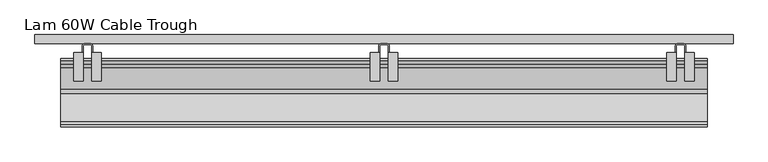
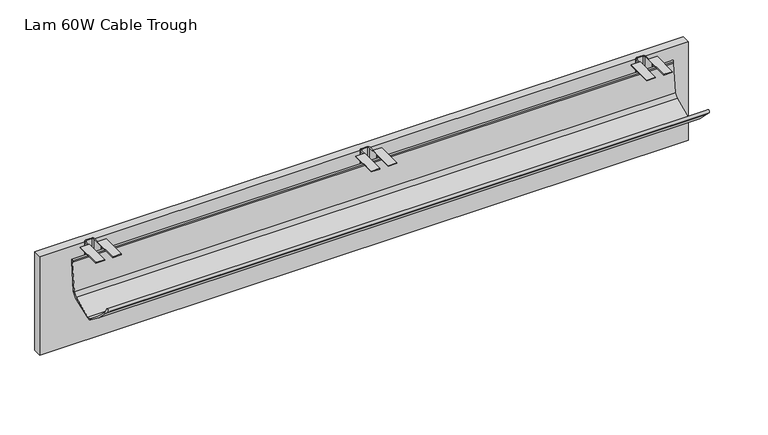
"""IFC4 building model written with IfcOpenShell, lengths in millimetres: furniture geometry, HermanMiller_ThrivePortfolio_Y1113_FabricModestyPanel : Lam 60W Cable Trough."""

from ifc_helpers import new_model, si_unit, point, frame, frame_2d, origin, place, context, project, spatial, polyline, circle_curve, trimmed, segment, composite_curve, outline, extrude, source, transform, mapped, element, save
from ifc_brep_helpers import plane_surface, cylinder_surface, revolved_surface, advanced_brep


def lam_60w_cable_trough_c497a591(model_context):
    return source(origin(), model_context, "Body", "SolidModel", [
        advanced_brep(
        [(1455.9153477, -129.9784643, 581.1783587), (1455.9153477, -138.7139894, 582.4060567), (1455.9153477, -198.75422, 634.7826925), (1455.9153477, -205.6805694, 647.1068285), (1455.9153477, -210.7198187, 643.3318213), (1455.9153477, -201.9455586, 634.3526316), (1455.9153477, -140.1690696, 580.3237712), (1455.9153477, -128.7464487, 578.9254856), (1455.9153477, -81.6381997, 596.9970871), (1455.9153477, -71.8455102, 609.1183797), (1455.9153477, -64.3572545, 676.9567898), (1455.9153477, -64.1154724, 681.4861643), (1455.9153477, -68.0580279, 680.8258123), (1455.9153477, -66.8071049, 677.1174631), (1455.9153477, -75.8148763, 609.8656088), (1455.9153477, -83.0609093, 601.0742849), (64.9478, -129.9784643, 581.1783587), (64.9478, -83.0609093, 601.0742849), (64.9478, -75.8148763, 609.8656088), (64.9478, -66.8071049, 677.1174631), (64.9478, -68.0580279, 680.8258123), (64.9478, -64.1154724, 681.4861643), (64.9478, -64.3572545, 676.9567898), (64.9478, -71.8455102, 609.1183797), (64.9478, -81.6381999, 596.9970876), (64.9478, -128.7464487, 578.9254856), (64.9478, -140.1690696, 580.3237712), (64.9478, -201.9455586, 634.3526316), (64.9478, -210.7198187, 643.3318213), (64.9478, -205.6805694, 647.1068285), (64.9478, -198.75422, 634.7826925), (64.9478, -138.7139894, 582.4060567)],
        [
            (0, 1, circle_curve(frame((1455.9153477, -133.1380873, 590.3885672), z_axis=(-1.0, 0.0, 0.0), x_axis=(0.0, 1.0, 0.0)), 9.7371022)),
            (1, 2, circle_curve(frame((1455.9153477, 73.7032601, 886.5044589), z_axis=(-1.0, 0.0, 0.0), x_axis=(0.0, 1.0, 0.0)), 370.9405965)),
            (2, 3),
            (3, 4, circle_curve(frame((1455.9153477, -208.4487225, 645.5510849), z_axis=(1.0, 0.0, 0.0), x_axis=(0.0, 1.0, 0.0)), 3.1753754)),
            (4, 5),
            (5, 6, circle_curve(frame((1455.9153477, 76.537838, 890.4379944), z_axis=(1.0, 0.0, 0.0), x_axis=(0.0, 1.0, 0.0)), 378.3288454)),
            (6, 7, circle_curve(frame((1455.9153477, -133.1410154, 590.381132), z_axis=(1.0, 0.0, 0.0), x_axis=(0.0, 1.0, 0.0)), 12.2696394)),
            (7, 8, circle_curve(frame((1455.9153477, -392.0017774, 1335.603441), z_axis=(1.0, 0.0, 0.0), x_axis=(0.0, 1.0, 0.0)), 801.1647124)),
            (8, 9, circle_curve(frame((1455.9153477, -88.0102619, 612.1613845), z_axis=(1.0, 0.0, 0.0), x_axis=(0.0, 1.0, 0.0)), 16.4486801)),
            (9, 10, circle_curve(frame((1455.9153477, -512.7649574, 692.1212018), z_axis=(1.0, 0.0, 0.0), x_axis=(0.0, 1.0, 0.0)), 448.6640474)),
            (10, 11),
            (11, 12, circle_curve(frame((1455.9153477, -66.1477003, 681.5198841), z_axis=(1.0, 0.0, 0.0), x_axis=(0.0, 1.0, 0.0)), 2.0325076)),
            (12, 13),
            (13, 14, circle_curve(frame((1455.9153477, -447.5076004, 693.8796345), z_axis=(-1.0, 0.0, 0.0), x_axis=(0.0, 1.0, 0.0)), 381.0693344)),
            (14, 15, circle_curve(frame((1455.9153477, -89.557462, 613.8107535), z_axis=(-1.0, 0.0, 0.0), x_axis=(0.0, 1.0, 0.0)), 14.2976511)),
            (15, 0, circle_curve(frame((1455.9153477, -247.1923462, 922.853387), z_axis=(-1.0, 0.0, 0.0), x_axis=(0.0, 1.0, 0.0)), 361.2214267)),
            (16, 17, circle_curve(frame((64.9478, -247.1923462, 922.853387), z_axis=(1.0, 0.0, 0.0), x_axis=(0.0, 1.0, 0.0)), 361.2214267)),
            (17, 18, circle_curve(frame((64.9478, -89.557462, 613.8107535), z_axis=(1.0, 0.0, 0.0), x_axis=(0.0, 1.0, 0.0)), 14.2976511)),
            (18, 19, circle_curve(frame((64.9478, -447.5076004, 693.8796345), z_axis=(1.0, 0.0, 0.0), x_axis=(0.0, 1.0, 0.0)), 381.0693344)),
            (19, 20),
            (20, 21, circle_curve(frame((64.9478, -66.1477003, 681.5198841), z_axis=(-1.0, 0.0, 0.0), x_axis=(0.0, 1.0, 0.0)), 2.0325076)),
            (21, 22),
            (22, 23, circle_curve(frame((64.9478, -512.7649574, 692.1212018), z_axis=(-1.0, 0.0, 0.0), x_axis=(0.0, 1.0, 0.0)), 448.6640474)),
            (23, 24, circle_curve(frame((64.9478, -88.0102619, 612.1613845), z_axis=(-1.0, 0.0, 0.0), x_axis=(0.0, 1.0, 0.0)), 16.4486801)),
            (24, 25, circle_curve(frame((64.9478, -392.0017774, 1335.603441), z_axis=(-1.0, 0.0, 0.0), x_axis=(0.0, 1.0, 0.0)), 801.1647124)),
            (25, 26, circle_curve(frame((64.9478, -133.1410154, 590.381132), z_axis=(-1.0, 0.0, 0.0), x_axis=(0.0, 1.0, 0.0)), 12.2696394)),
            (26, 27, circle_curve(frame((64.9478, 76.537838, 890.4379944), z_axis=(-1.0, 0.0, 0.0), x_axis=(0.0, 1.0, 0.0)), 378.3288454)),
            (27, 28),
            (28, 29, circle_curve(frame((64.9478, -208.4487225, 645.5510849), z_axis=(-1.0, 0.0, 0.0), x_axis=(0.0, 1.0, 0.0)), 3.1753754)),
            (29, 30),
            (30, 31, circle_curve(frame((64.9478, 73.7032601, 886.5044589), z_axis=(1.0, 0.0, 0.0), x_axis=(0.0, 1.0, 0.0)), 370.9405965)),
            (31, 16, circle_curve(frame((64.9478, -133.1380873, 590.3885672), z_axis=(1.0, 0.0, 0.0), x_axis=(0.0, 1.0, 0.0)), 9.7371022)),
            (0, 16),
            (31, 1),
            (30, 2),
            (29, 3),
            (28, 4),
            (27, 5),
            (26, 6),
            (25, 7),
            (24, 8),
            (23, 9),
            (22, 10),
            (21, 11),
            (20, 12),
            (19, 13),
            (18, 14),
            (17, 15),
        ],
        [
            plane_surface(frame((1455.9153477, -123.4009851, 590.3885672), z_axis=(1.0, 0.0, 0.0), x_axis=(0.0, 0.0, -1.0))),
            plane_surface(frame((64.9478, -123.4009851, 590.3885672), z_axis=(-1.0, 0.0, 0.0), x_axis=(0.0, 0.0, 1.0))),
            revolved_surface(polyline([(64.9478, -123.4009851, 590.3885672), (1455.9153477, -123.4009851, 590.3885672)]), (64.9478, -133.1380873, 590.3885672), (-1.0, 0.0, 0.0)),
            revolved_surface(polyline([(64.9478, 444.64385660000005, 886.5044589), (1455.9153477, 444.64385660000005, 886.5044589)]), (64.9478, 73.7032601, 886.5044589), (-1.0, 0.0, 0.0)),
            plane_surface(frame((1455.9153477, -198.75422, 634.7826925), z_axis=(0.0, 0.8717561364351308, 0.48994003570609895), x_axis=(-1.0, 0.0, 0.0))),
            cylinder_surface(frame((64.9478, -208.4487225, 645.5510849), z_axis=(1.0, 0.0, 0.0), x_axis=(0.0, 1.0, 0.0)), 3.1753754),
            plane_surface(frame((1455.9153477, -210.7198187, 643.3318213), z_axis=(0.0, -0.7152213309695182, -0.698898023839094), x_axis=(-1.0, 0.0, 0.0))),
            cylinder_surface(frame((64.9478, 76.537838, 890.4379944), z_axis=(1.0, 0.0, 0.0), x_axis=(0.0, 1.0, 0.0)), 378.3288454),
            cylinder_surface(frame((64.9478, -133.1410154, 590.381132), z_axis=(1.0, 0.0, 0.0), x_axis=(0.0, 1.0, 0.0)), 12.2696394),
            cylinder_surface(frame((64.9478, -392.0017774, 1335.603441), z_axis=(1.0, 0.0, 0.0), x_axis=(0.0, 1.0, 0.0)), 801.1647124),
            cylinder_surface(frame((64.9478, -88.0102619, 612.1613845), z_axis=(1.0, 0.0, 0.0), x_axis=(0.0, 1.0, 0.0)), 16.4486801),
            cylinder_surface(frame((64.9478, -512.7649574, 692.1212018), z_axis=(1.0, 0.0, 0.0), x_axis=(0.0, 1.0, 0.0)), 448.6640474),
            plane_surface(frame((1455.9153477, -64.3572545, 676.9567898), z_axis=(0.0, 0.9985782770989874, -0.053305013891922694), x_axis=(-1.0, 0.0, 0.0))),
            cylinder_surface(frame((64.9478, -66.1477003, 681.5198841), z_axis=(1.0, 0.0, 0.0), x_axis=(0.0, 1.0, 0.0)), 2.0325076),
            plane_surface(frame((1455.9153477, -68.0580279, 680.8258123), z_axis=(0.0, -0.9475421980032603, -0.3196306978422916), x_axis=(-1.0, 0.0, 0.0))),
            revolved_surface(polyline([(64.9478, -66.438266, 693.8796345), (1455.9153477, -66.438266, 693.8796345)]), (64.9478, -447.5076004, 693.8796345), (-1.0, 0.0, 0.0)),
            revolved_surface(polyline([(64.9478, -75.2598109, 613.8107535), (1455.9153477, -75.2598109, 613.8107535)]), (64.9478, -89.557462, 613.8107535), (-1.0, 0.0, 0.0)),
            revolved_surface(polyline([(64.9478, 114.02908049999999, 922.853387), (1455.9153477, 114.02908049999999, 922.853387)]), (64.9478, -247.1923462, 922.853387), (-1.0, 0.0, 0.0)),
        ],
        [
            (0, [[1, 2, 3, 4, 5, 6, 7, 8, 9, 10, 11, 12, 13, 14, 15, 16]]),
            (1, [[17, 18, 19, 20, 21, 22, 23, 24, 25, 26, 27, 28, 29, 30, 31, 32]]),
            (2, [[-1, 33, -32, 34]]),
            (3, [[-2, -34, -31, 35]]),
            (4, [[-3, -35, -30, 36]]),
            (5, [[-4, -36, -29, 37]]),
            (6, [[-5, -37, -28, 38]]),
            (7, [[-6, -38, -27, 39]]),
            (8, [[-7, -39, -26, 40]]),
            (9, [[-8, -40, -25, 41]]),
            (10, [[-9, -41, -24, 42]]),
            (11, [[-10, -42, -23, 43]]),
            (12, [[-11, -43, -22, 44]]),
            (13, [[-12, -44, -21, 45]]),
            (14, [[-13, -45, -20, 46]]),
            (15, [[-14, -46, -19, 47]]),
            (16, [[-15, -47, -18, 48]]),
            (17, [[-16, -48, -17, -33]]),
        ],
    ),
        extrude(outline(composite_curve([segment(polyline([(771.6520075, -36.9120729), (771.6520075, -64.1154724), (769.8993892, -64.1154724), (769.8993892, -36.9120524)]), True, "CONTINUOUS"), segment(trimmed(circle_curve(frame_2d((766.6228087, -36.9120524)), 3.2765805), [point((769.8993892, -36.9120524))], [point((766.6228087, -33.6354719))], True, "CARTESIAN"), True, "CONTINUOUS"), segment(polyline([(766.6228087, -33.6354719), (754.3292118, -33.6354719)]), True, "CONTINUOUS"), segment(trimmed(circle_curve(frame_2d((754.3292118, -36.9120729)), 3.276601), [point((754.3292118, -33.6354719))], [point((751.0526108, -36.9120729))], True, "CARTESIAN"), True, "CONTINUOUS"), segment(polyline([(751.0526108, -36.9120729), (751.0526108, -64.1154724), (749.3000288, -64.1154724), (749.3000288, -36.9138188)]), True, "CONTINUOUS"), segment(trimmed(circle_curve(frame_2d((754.3292277, -36.9138188)), 5.0291988), [point((749.3000288, -36.9138188))], [point((754.3292277, -31.88462))], False, "CARTESIAN"), True, "CONTINUOUS"), segment(polyline([(754.3292277, -31.88462), (766.6245546, -31.88462)]), True, "CONTINUOUS"), segment(trimmed(circle_curve(frame_2d((766.6245546, -36.9120729)), 5.0274529), [point((766.6245546, -31.88462))], [point((771.6520075, -36.9120729))], False, "CARTESIAN"), True, "CONTINUOUS")], self_intersect=False)), frame((0.0, 0.0, 627.634001), z_axis=(0.0, 0.0, 1.0), x_axis=(1.0, 0.0, 0.0)), (0.0, 0.0, 1.0), 64.6430019),
        extrude(outline(polyline([(751.0526108, -50.8780491), (751.0526108, -112.3460495), (730.6817975, -112.3460495), (730.6817975, -50.8780491), (751.0526108, -50.8780491)])), frame((0.0, 0.0, 692.2770029), z_axis=(0.0, 0.0, 1.0), x_axis=(1.0, 0.0, 0.0)), (0.0, 0.0, 1.0), 1.7525971),
        extrude(outline(polyline([(769.8993892, -50.8780491), (790.2702025, -50.8780491), (790.2702025, -112.3460495), (769.8993892, -112.3460495), (769.8993892, -50.8780491)])), frame((0.0, 0.0, 692.2770029), z_axis=(0.0, 0.0, 1.0), x_axis=(1.0, 0.0, 0.0)), (0.0, 0.0, 1.0), 1.7525971),
        extrude(outline(composite_curve([segment(polyline([(134.034088, -64.1154724), (132.2814878, -64.1154724), (132.2814878, -36.9120706)]), True, "CONTINUOUS"), segment(trimmed(circle_curve(frame_2d((129.0048891, -36.9120706)), 3.2765987), [point((132.2814878, -36.9120706))], [point((129.0048891, -33.6354719))], True, "CARTESIAN"), True, "CONTINUOUS"), segment(polyline([(129.0048891, -33.6354719), (116.7112831, -33.6354719)]), True, "CONTINUOUS"), segment(trimmed(circle_curve(frame_2d((116.7112831, -36.9120729)), 3.276601), [point((116.7112831, -33.6354719))], [point((113.4346822, -36.9120729))], True, "CARTESIAN"), True, "CONTINUOUS"), segment(polyline([(113.4346822, -36.9120729), (113.4346822, -64.1154724), (111.682082, -64.1154724), (111.682082, -36.9073034)]), True, "CONTINUOUS"), segment(trimmed(circle_curve(frame_2d((116.7047655, -36.9073034)), 5.0226834), [point((111.682082, -36.9073034))], [point((116.7047655, -31.88462))], False, "CARTESIAN"), True, "CONTINUOUS"), segment(polyline([(116.7047655, -31.88462), (129.0066351, -31.88462)]), True, "CONTINUOUS"), segment(trimmed(circle_curve(frame_2d((129.0066351, -36.9120729)), 5.0274529), [point((129.0066351, -31.88462))], [point((134.034088, -36.9120729))], False, "CARTESIAN"), True, "CONTINUOUS"), segment(polyline([(134.034088, -36.9120729), (134.034088, -64.1154724)]), True, "CONTINUOUS")], self_intersect=False)), frame((0.0, 0.0, 627.634001), z_axis=(0.0, 0.0, 1.0), x_axis=(1.0, 0.0, 0.0)), (0.0, 0.0, 1.0), 64.6430019),
        extrude(outline(composite_curve([segment(polyline([(1409.2720465, -64.1154724), (1407.5194282, -64.1154724), (1407.5194282, -36.9120524)]), True, "CONTINUOUS"), segment(trimmed(circle_curve(frame_2d((1404.2428476, -36.9120524)), 3.2765805), [point((1407.5194282, -36.9120524))], [point((1404.2428476, -33.6354719))], True, "CARTESIAN"), True, "CONTINUOUS"), segment(polyline([(1404.2428476, -33.6354719), (1391.9492507, -33.6354719)]), True, "CONTINUOUS"), segment(trimmed(circle_curve(frame_2d((1391.9492507, -36.9120729)), 3.276601), [point((1391.9492507, -33.6354719))], [point((1388.6726498, -36.9120729))], True, "CARTESIAN"), True, "CONTINUOUS"), segment(polyline([(1388.6726498, -36.9120729), (1388.6726498, -64.1154724), (1386.9200315, -64.1154724), (1386.9200315, -36.9072943)]), True, "CONTINUOUS"), segment(trimmed(circle_curve(frame_2d((1391.9427058, -36.9072943)), 5.0226743), [point((1386.9200315, -36.9072943))], [point((1391.9427058, -31.88462))], False, "CARTESIAN"), True, "CONTINUOUS"), segment(polyline([(1391.9427058, -31.88462), (1404.2445936, -31.88462)]), True, "CONTINUOUS"), segment(trimmed(circle_curve(frame_2d((1404.2445936, -36.9120729)), 5.0274529), [point((1404.2445936, -31.88462))], [point((1409.2720465, -36.9120729))], False, "CARTESIAN"), True, "CONTINUOUS"), segment(polyline([(1409.2720465, -36.9120729), (1409.2720465, -64.1154724)]), True, "CONTINUOUS")], self_intersect=False)), frame((0.0, 0.0, 627.634001), z_axis=(0.0, 0.0, 1.0), x_axis=(1.0, 0.0, 0.0)), (0.0, 0.0, 1.0), 64.6430019),
        extrude(outline(polyline([(113.4346822, -112.3460495), (93.0638871, -112.3460495), (93.0638871, -50.8780491), (113.4346822, -50.8780491), (113.4346822, -112.3460495)])), frame((0.0, 0.0, 692.2770029), z_axis=(0.0, 0.0, 1.0), x_axis=(1.0, 0.0, 0.0)), (0.0, 0.0, 1.0), 1.7525971),
        extrude(outline(polyline([(152.652292, -50.8780491), (152.652292, -112.3460495), (132.2814878, -112.3460495), (132.2814878, -50.8780491), (152.652292, -50.8780491)])), frame((0.0, 0.0, 692.2770029), z_axis=(0.0, 0.0, 1.0), x_axis=(1.0, 0.0, 0.0)), (0.0, 0.0, 1.0), 1.7525971),
        extrude(outline(polyline([(1388.6726498, -50.8780491), (1388.6726498, -112.3460495), (1368.3018365, -112.3460495), (1368.3018365, -50.8780491), (1388.6726498, -50.8780491)])), frame((0.0, 0.0, 692.2770029), z_axis=(0.0, 0.0, 1.0), x_axis=(1.0, 0.0, 0.0)), (0.0, 0.0, 1.0), 1.7525971),
        extrude(outline(polyline([(1407.5194282, -50.8780491), (1427.8902414, -50.8780491), (1427.8902414, -112.3460495), (1407.5194282, -112.3460495), (1407.5194282, -50.8780491)])), frame((0.0, 0.0, 692.2770029), z_axis=(0.0, 0.0, 1.0), x_axis=(1.0, 0.0, 0.0)), (0.0, 0.0, 1.0), 1.7525971),
        extrude(outline(polyline([(1511.046, -12.58062), (1511.046, -31.88462), (9.906, -31.88462), (9.906, -12.58062), (1511.046, -12.58062)])), frame((0.0, 0.0, 447.66738), z_axis=(0.0, 0.0, 1.0), x_axis=(1.0, 0.0, 0.0)), (0.0, 0.0, 1.0), 241.3),
    ])


if __name__ == "__main__":
    model = new_model("IFC4")
    model_context = context("Model", 3, world=origin())
    ifc_project = project(units=[si_unit("LENGTHUNIT", "METRE", prefix="MILLI")], contexts=[model_context])
    site = spatial("IfcSite", under=ifc_project)
    building = spatial("IfcBuilding", under=site)
    placement = place(None, origin())
    lam_60w_cable_trough_shape = lam_60w_cable_trough_c497a591(model_context)
    element("IfcFurniture", 1, ObjectType="HermanMiller_ThrivePortfolio_Y1113_FabricModestyPanel : Lam 60W Cable Trough", at=placement, inside=building, context=model_context, shape_type="MappedRepresentation", body=[
        mapped(lam_60w_cable_trough_shape, transform((0.0, 0.0, 0.0), x_axis=(1.0, 0.0, 0.0), y_axis=(0.0, 1.0, 0.0), z_axis=(0.0, 0.0, 1.0))),
    ])
    save(model, "model.ifc")
